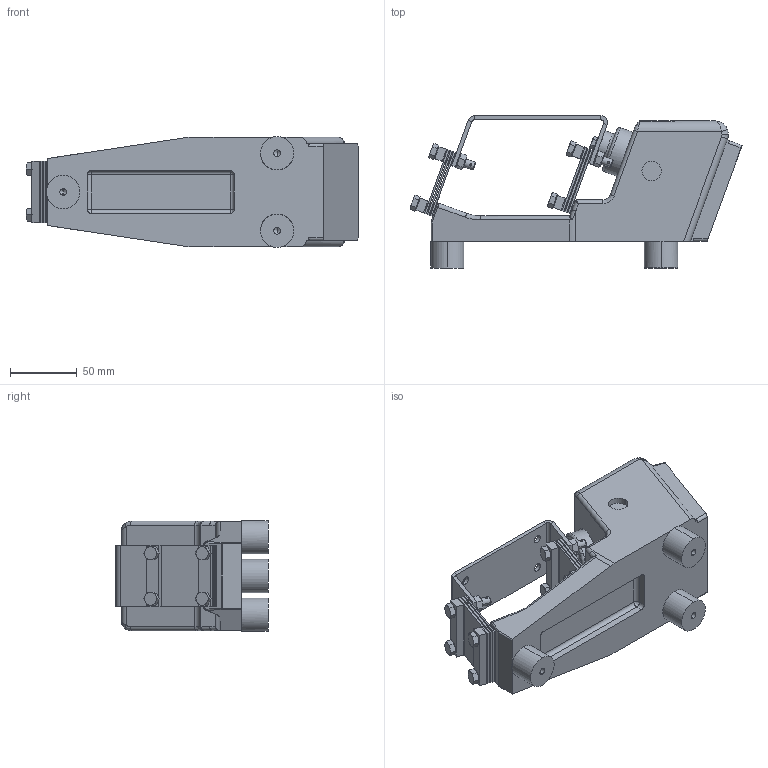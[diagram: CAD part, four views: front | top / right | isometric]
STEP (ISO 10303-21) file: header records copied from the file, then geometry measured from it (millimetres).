
FILE_DESCRIPTION (( 'STEP AP203' ), '1' );
FILE_NAME ('JSC 0C 俋倛假蚾芞.STEP', '2024-12-13T09:17:03', ( '' ), ( '' ), 'SwSTEP 2.0', 'SolidWorks 2022', '' );
FILE_SCHEMA (( 'CONFIG_CONTROL_DESIGN' ));
Length unit declared in the file: millimetre
Products named in the file (1): JSC 0C  俋倛假蚾芞
Bounding box: 248.37 x 113.83 x 83 mm (x, y, z)
Volume: 866211.5 mm3; surface area: 154792.3 mm2
Topology: 41 solids, 44 shells, 864 faces, 2014 edges, 1250 vertices
Faces by surface type: plane 395, cylinder 283, cone 151, bspline 35
Entity records: 27525 total; most frequent: CARTESIAN_POINT 7665, DIRECTION 4102, ORIENTED_EDGE 3994, EDGE_CURVE 1997, AXIS2_PLACEMENT_3D 1556, VERTEX_POINT 1250, EDGE_LOOP 1067, VECTOR 990
